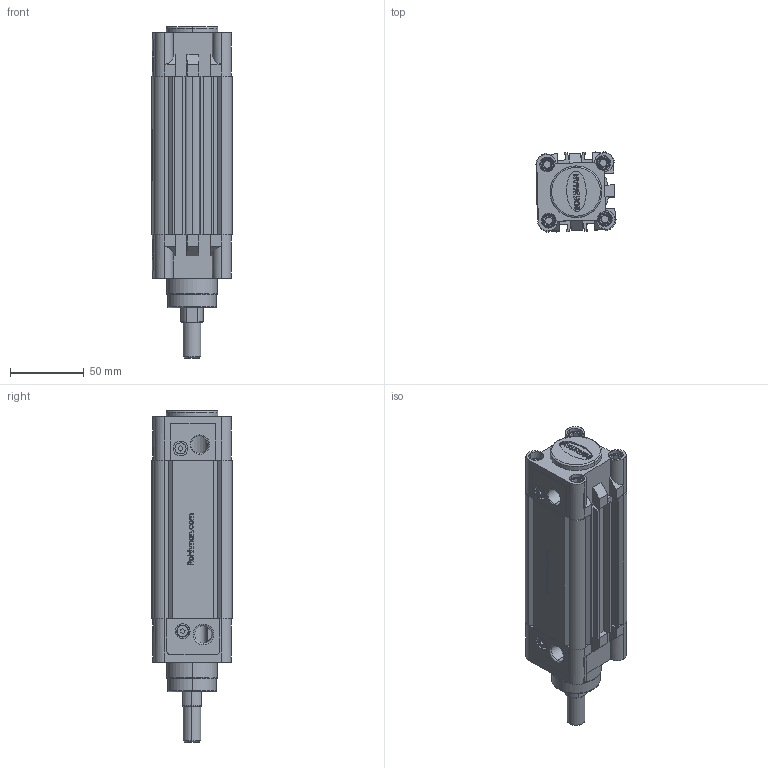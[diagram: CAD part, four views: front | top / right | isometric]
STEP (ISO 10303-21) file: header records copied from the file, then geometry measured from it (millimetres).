
FILE_DESCRIPTION (( 'STEP AP214' ), '1' );
FILE_NAME ('RIC_40_75_WEB.STEP', '2021-01-10T10:49:01', ( '' ), ( '' ), 'SwSTEP 2.0', 'SolidWorks 2021', '' );
FILE_SCHEMA (( 'AUTOMOTIVE_DESIGN' ));
Length unit declared in the file: millimetre
Products named in the file (8): m6kapakcivatasi; ric40bogazkecesi; RIC_40_BORU_WEB_RIC 40-250; ric40arkakapak; yastýklama civatasý; 16_K_MIL_WEB; ric40onkapak; RIC_40_75_WEB
Assembly tree (15 placements, depth 2):
  RIC_40_75_WEB
    ric40arkakapak
    ric40onkapak
    RIC_40_BORU_WEB_RIC 40-250
    ric40bogazkecesi
    yastýklama civatasý  x2
    m6kapakcivatasi  x8
    16_K_MIL_WEB
Bounding box: 54.22 x 54.22 x 224.5 mm (x, y, z)
Volume: 247063.2 mm3; surface area: 117240.9 mm2
Topology: 22 solids, 22 shells, 1035 faces, 2485 edges, 1585 vertices
Faces by surface type: plane 553, cylinder 227, cone 131, bspline 98, torus 26
Entity records: 31879 total; most frequent: CARTESIAN_POINT 10352, ORIENTED_EDGE 3982, DIRECTION 3656, EDGE_CURVE 1991, VERTEX_POINT 1289, LINE 1264, VECTOR 1264, AXIS2_PLACEMENT_3D 1196
